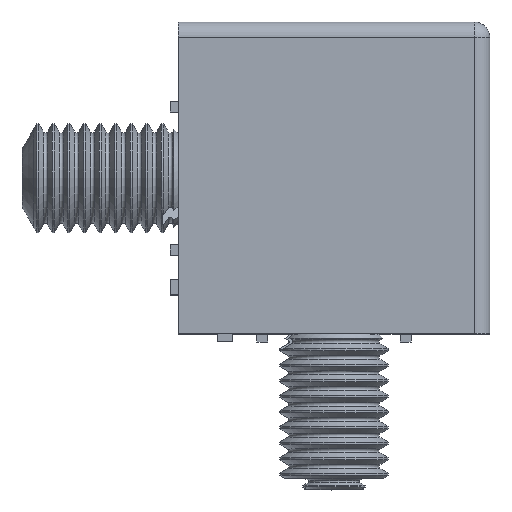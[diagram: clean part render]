
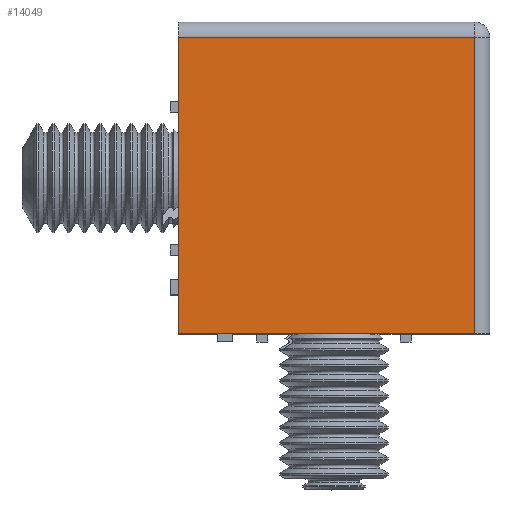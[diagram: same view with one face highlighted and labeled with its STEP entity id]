
A CAD part, top view. The second image highlights one B-rep face of the part: STEP entity #14049.
In plain terms, the highlighted planar face has unit normal (0, 0, 1).
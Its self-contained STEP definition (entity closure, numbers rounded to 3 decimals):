
#546=PLANE('',#15029);
#1180=FACE_OUTER_BOUND('',#2064,.T.);
#2064=EDGE_LOOP('',(#10841,#10842,#10843,#10844));
#4053=LINE('',#22735,#5280);
#4056=LINE('',#22743,#5283);
#4057=LINE('',#22745,#5284);
#4058=LINE('',#22746,#5285);
#5280=VECTOR('',#17675,1000.);
#5283=VECTOR('',#17682,1000.);
#5284=VECTOR('',#17683,1000.);
#5285=VECTOR('',#17684,1000.);
#6429=VERTEX_POINT('',#22732);
#6430=VERTEX_POINT('',#22734);
#6433=VERTEX_POINT('',#22742);
#6434=VERTEX_POINT('',#22744);
#8027=EDGE_CURVE('',#6430,#6429,#4053,.T.);
#8031=EDGE_CURVE('',#6429,#6433,#4056,.T.);
#8032=EDGE_CURVE('',#6433,#6434,#4057,.T.);
#8033=EDGE_CURVE('',#6430,#6434,#4058,.T.);
#10841=ORIENTED_EDGE('',*,*,#8027,.T.);
#10842=ORIENTED_EDGE('',*,*,#8031,.T.);
#10843=ORIENTED_EDGE('',*,*,#8032,.T.);
#10844=ORIENTED_EDGE('',*,*,#8033,.F.);
#14049=ADVANCED_FACE('',(#1180),#546,.F.);
#15029=AXIS2_PLACEMENT_3D('',#22741,#17680,#17681);
#17675=DIRECTION('',(1.,0.,0.));
#17680=DIRECTION('center_axis',(0.,0.,
-1.));
#17681=DIRECTION('ref_axis',(-1.,0.,0.));
#17682=DIRECTION('',(0.,1.,0.));
#17683=DIRECTION('',(-1.,0.,0.));
#17684=DIRECTION('',(0.,1.,0.));
#22732=CARTESIAN_POINT('',(13.792,-14.939,21.5));
#22734=CARTESIAN_POINT('',(-24.208,-14.939,21.5));
#22735=CARTESIAN_POINT('',(13.792,-14.939,21.5));
#22741=CARTESIAN_POINT('Origin',(13.792,25.061,21.5));
#22742=CARTESIAN_POINT('',(13.792,23.061,21.5));
#22743=CARTESIAN_POINT('',(13.792,25.061,21.5));
#22744=CARTESIAN_POINT('',(-24.208,23.061,21.5));
#22745=CARTESIAN_POINT('',(13.792,23.061,21.5));
#22746=CARTESIAN_POINT('',(-24.208,25.061,21.5));
